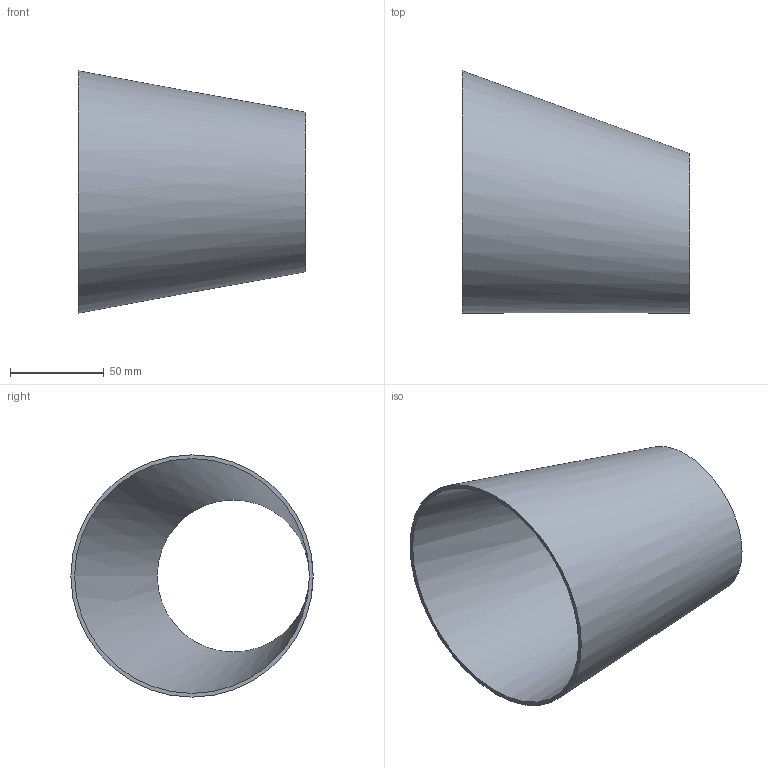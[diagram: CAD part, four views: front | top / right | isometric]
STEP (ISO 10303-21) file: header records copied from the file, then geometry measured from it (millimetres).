
FILE_DESCRIPTION(('FreeCAD Model'),'2;1');
FILE_NAME( '/home/martin/Documents/proyect/accesorios/stp/red-exc_DN125-80.step', '2017-12-31T13:05:06',('Author'),(''), 'Open CASCADE STEP processor 6.8','FreeCAD','Unknown');
FILE_SCHEMA(('AUTOMOTIVE_DESIGN_CC2 { 1 2 10303 214 -1 1 5 4 }'));
Length unit declared in the file: millimetre
Products named in the file (1): red-exc_DN125-80
Bounding box: 121 x 129 x 129 mm (x, y, z)
Volume: 79827.9 mm3; surface area: 83081.3 mm2
Topology: 1 solids, 1 shells, 4 faces, 6 edges, 4 vertices
Faces by surface type: bspline 2, plane 2
Entity records: 275 total; most frequent: CARTESIAN_POINT 115, DIRECTION 26, ORIENTED_EDGE 12, PCURVE 12, DEFINITIONAL_REPRESENTATION 12, CIRCLE 8, LINE 8, VECTOR 8
